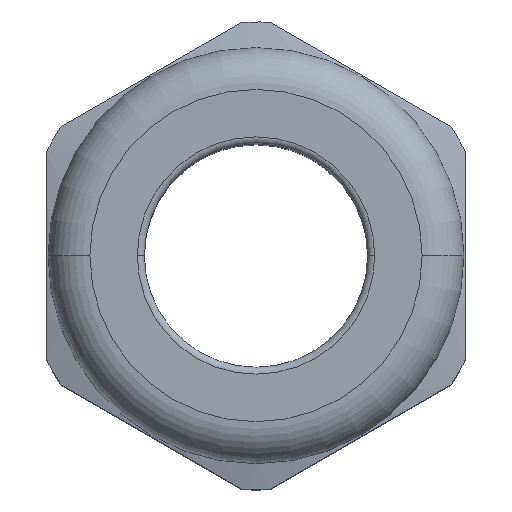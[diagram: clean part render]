
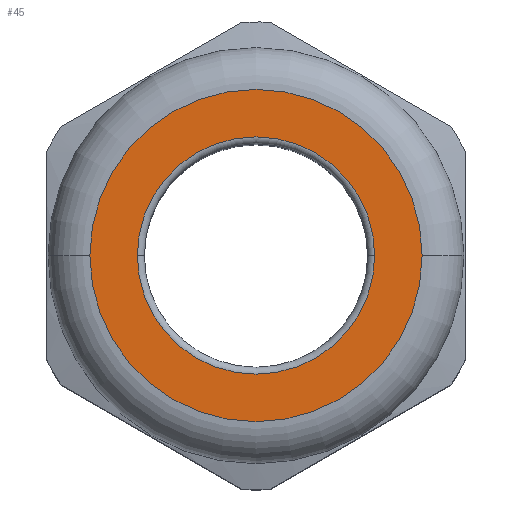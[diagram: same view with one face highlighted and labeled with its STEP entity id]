
A CAD part, top view. The second image highlights one B-rep face of the part: STEP entity #45.
In plain terms, the highlighted planar face has unit normal (0, 0, 1).
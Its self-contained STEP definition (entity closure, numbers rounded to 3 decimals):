
#32 = EDGE_LOOP ( 'NONE', ( #51, #34 ) ) ;
#34 = ORIENTED_EDGE ( 'NONE', *, *, #136, .T. ) ;
#39 = EDGE_LOOP ( 'NONE', ( #47, #48 ) ) ;
#45 = ADVANCED_FACE ( 'NONE', ( #1155, #1151 ), #1102, .T. ) ;
#46 = EDGE_CURVE ( 'NONE', #842, #838, #1097, .T. ) ;
#47 = ORIENTED_EDGE ( 'NONE', *, *, #906, .F. ) ;
#48 = ORIENTED_EDGE ( 'NONE', *, *, #46, .F. ) ;
#51 = ORIENTED_EDGE ( 'NONE', *, *, #918, .T. ) ;
#136 = EDGE_CURVE ( 'NONE', #956, #919, #1261, .T. ) ;
#838 = VERTEX_POINT ( 'NONE', #2322 ) ;
#842 = VERTEX_POINT ( 'NONE', #2316 ) ;
#906 = EDGE_CURVE ( 'NONE', #838, #842, #2520, .T. ) ;
#918 = EDGE_CURVE ( 'NONE', #919, #956, #2501, .T. ) ;
#919 = VERTEX_POINT ( 'NONE', #2490 ) ;
#956 = VERTEX_POINT ( 'NONE', #2700 ) ;
#1097 = CIRCLE ( 'NONE', #1187, 11.9 ) ;
#1098 = DIRECTION ( 'NONE',  ( 1., 0., 0. ) ) ;
#1099 = DIRECTION ( 'NONE',  ( 0., 0., 1. ) ) ;
#1100 = CARTESIAN_POINT ( 'NONE',  ( 0., 11.9, 40.5 ) ) ;
#1101 = AXIS2_PLACEMENT_3D ( 'NONE', #1100, #1099, #1098 ) ;
#1102 = PLANE ( 'NONE',  #1101 ) ;
#1151 = FACE_OUTER_BOUND ( 'NONE', #39, .T. ) ;
#1155 = FACE_BOUND ( 'NONE', #32, .T. ) ;
#1184 = DIRECTION ( 'NONE',  ( -1., 0., 0. ) ) ;
#1185 = DIRECTION ( 'NONE',  ( 0., 0., -1. ) ) ;
#1186 = CARTESIAN_POINT ( 'NONE',  ( 0., 0., 40.5 ) ) ;
#1187 = AXIS2_PLACEMENT_3D ( 'NONE', #1186, #1185, #1184 ) ;
#1192 = DIRECTION ( 'NONE',  ( -1., 0., 0. ) ) ;
#1193 = DIRECTION ( 'NONE',  ( 0., 0., -1. ) ) ;
#1194 = CARTESIAN_POINT ( 'NONE',  ( 0., 0., 40.5 ) ) ;
#1195 = AXIS2_PLACEMENT_3D ( 'NONE', #1194, #1193, #1192 ) ;
#1261 = CIRCLE ( 'NONE', #1195, 8.5 ) ;
#2316 = CARTESIAN_POINT ( 'NONE',  ( 11.9, 0., 40.5 ) ) ;
#2322 = CARTESIAN_POINT ( 'NONE',  ( -11.9, 0., 40.5 ) ) ;
#2490 = CARTESIAN_POINT ( 'NONE',  ( -8.5, 0., 40.5 ) ) ;
#2491 = DIRECTION ( 'NONE',  ( -1., 0., 0. ) ) ;
#2492 = DIRECTION ( 'NONE',  ( 0., 0., -1. ) ) ;
#2493 = CARTESIAN_POINT ( 'NONE',  ( 0., 0., 40.5 ) ) ;
#2494 = AXIS2_PLACEMENT_3D ( 'NONE', #2493, #2492, #2491 ) ;
#2501 = CIRCLE ( 'NONE', #2494, 8.5 ) ;
#2520 = CIRCLE ( 'NONE', #2570, 11.9 ) ;
#2567 = DIRECTION ( 'NONE',  ( -1., 0., 0. ) ) ;
#2568 = DIRECTION ( 'NONE',  ( 0., 0., -1. ) ) ;
#2569 = CARTESIAN_POINT ( 'NONE',  ( 0., 0., 40.5 ) ) ;
#2570 = AXIS2_PLACEMENT_3D ( 'NONE', #2569, #2568, #2567 ) ;
#2700 = CARTESIAN_POINT ( 'NONE',  ( 8.5, 0., 40.5 ) ) ;
